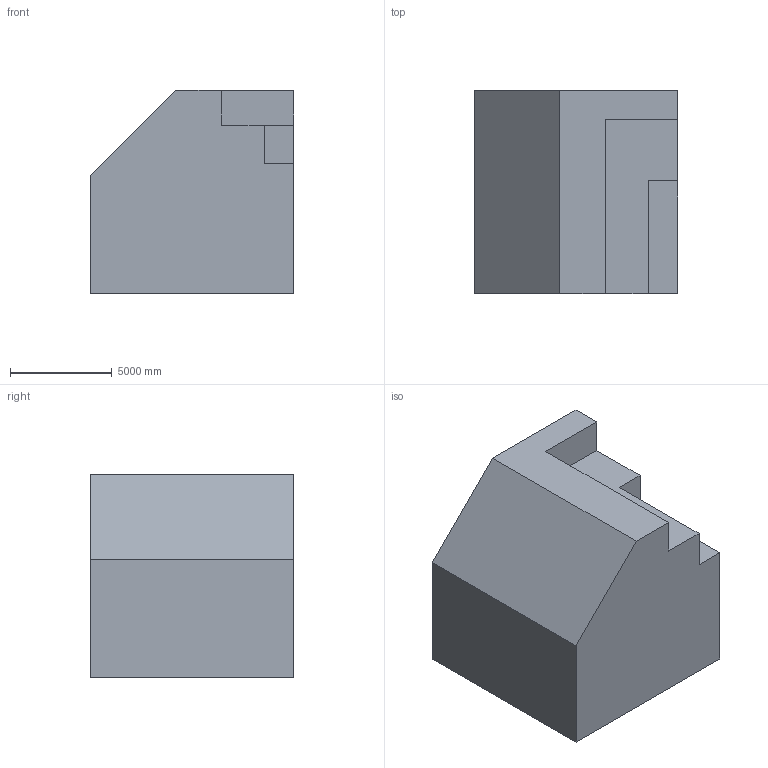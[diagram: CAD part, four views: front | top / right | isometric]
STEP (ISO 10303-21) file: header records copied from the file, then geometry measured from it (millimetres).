
FILE_DESCRIPTION (( 'STEP AP203' ), '1' );
FILE_NAME ('240.STEP', '2022-09-07T12:24:18', ( 'user' ), ( '' ), 'SwSTEP 2.0', 'SolidWorks 2021', '' );
FILE_SCHEMA (( 'CONFIG_CONTROL_DESIGN' ));
Length unit declared in the file: centimetre
Products named in the file (1): 240
Bounding box: 10000 x 10000 x 10000 mm (x, y, z)
Volume: 844848759198.3 mm3; surface area: 557862467.9 mm2
Topology: 1 solids, 1 shells, 13 faces, 33 edges, 22 vertices
Faces by surface type: plane 13
Entity records: 464 total; most frequent: CARTESIAN_POINT 69, ORIENTED_EDGE 66, DIRECTION 61, VECTOR 33, EDGE_CURVE 33, LINE 33, VERTEX_POINT 22, AXIS2_PLACEMENT_3D 14
